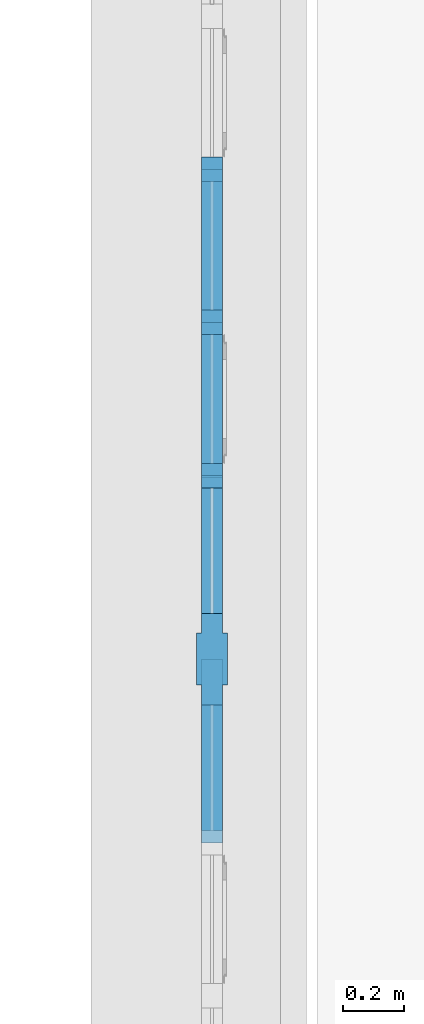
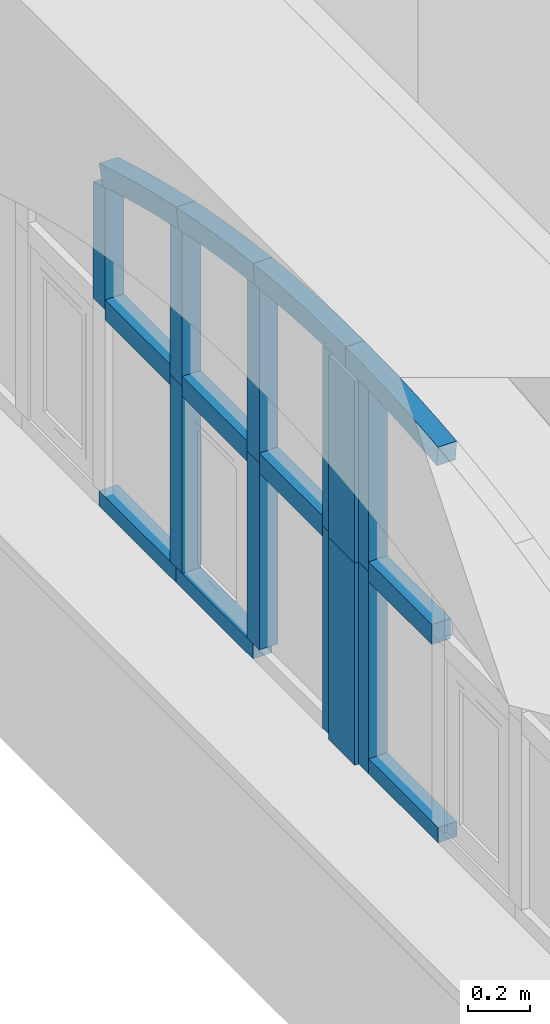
# One storey, part 5 of 32: 18 members, 1 element without a shape of its own.
"""IFC2X3 building model written with IfcOpenShell, lengths in millimetres."""

from ifc_helpers import new_model, entity, si_unit, converted_unit, derived_unit, direction, frame, frame_2d, origin, place, context, subcontext, project, spatial, polyline, circle_curve, parameter, trimmed, segment, composite_curve, rectangle, outline, extrude, faceted_brep, source, transform, mapped, material, type_object, type_shapes, element, aggregate, save


model = new_model("IFC2X3")

# Units and contexts
model_context = context("Model", 3, precision=0.01, world=origin(), true_north=direction((6.123031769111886e-17, 1.0)))
body_context = subcontext(model_context, "Body", "Model", "MODEL_VIEW")
ifc_project = project(units=[si_unit("LENGTHUNIT", "METRE", prefix="MILLI"), si_unit("AREAUNIT", "SQUARE_METRE"), si_unit("VOLUMEUNIT", "CUBIC_METRE"), converted_unit("PLANEANGLEUNIT", "DEGREE", entity("IfcPlaneAngleMeasure", 0.017453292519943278), si_unit("PLANEANGLEUNIT", "RADIAN"), dimensions=[0, 0, 0, 0, 0, 0, 0]), si_unit("MASSUNIT", "GRAM", prefix="KILO"), derived_unit("MASSDENSITYUNIT", [(si_unit("MASSUNIT", "GRAM", prefix="KILO"), 1), (si_unit("LENGTHUNIT", "METRE"), -3)]), derived_unit("IONCONCENTRATIONUNIT", [(si_unit("MASSUNIT", "GRAM", prefix="KILO"), 1), (si_unit("LENGTHUNIT", "METRE"), -3)]), derived_unit("MOMENTOFINERTIAUNIT", [(si_unit("LENGTHUNIT", "METRE"), 4)]), si_unit("TIMEUNIT", "SECOND"), si_unit("FREQUENCYUNIT", "HERTZ"), si_unit("THERMODYNAMICTEMPERATUREUNIT", "DEGREE_CELSIUS"), derived_unit("THERMALTRANSMITTANCEUNIT", [(si_unit("MASSUNIT", "GRAM", prefix="KILO"), 1), (si_unit("THERMODYNAMICTEMPERATUREUNIT", "KELVIN"), -1), (si_unit("TIMEUNIT", "SECOND"), -3)]), derived_unit("THERMALCONDUCTANCEUNIT", [(si_unit("MASSUNIT", "GRAM", prefix="KILO"), 1), (si_unit("THERMODYNAMICTEMPERATUREUNIT", "KELVIN"), -1), (si_unit("TIMEUNIT", "SECOND"), -3), (si_unit("LENGTHUNIT", "METRE"), 1)]), derived_unit("VOLUMETRICFLOWRATEUNIT", [(si_unit("LENGTHUNIT", "METRE", prefix="DECI"), 3), (si_unit("TIMEUNIT", "SECOND"), -1)]), derived_unit("MASSFLOWRATEUNIT", [(si_unit("MASSUNIT", "GRAM", prefix="KILO"), 1), (si_unit("TIMEUNIT", "SECOND"), -1)]), derived_unit("ROTATIONALFREQUENCYUNIT", [(si_unit("TIMEUNIT", "SECOND"), -1)]), si_unit("ELECTRICCURRENTUNIT", "AMPERE"), si_unit("ELECTRICVOLTAGEUNIT", "VOLT"), si_unit("POWERUNIT", "WATT"), si_unit("FORCEUNIT", "NEWTON", prefix="KILO"), si_unit("ILLUMINANCEUNIT", "LUX"), si_unit("LUMINOUSFLUXUNIT", "LUMEN"), si_unit("LUMINOUSINTENSITYUNIT", "CANDELA"), si_unit("ENERGYUNIT", "JOULE"), derived_unit("USERDEFINED", [(si_unit("MASSUNIT", "GRAM", prefix="KILO"), -1), (si_unit("LENGTHUNIT", "METRE"), -2), (si_unit("TIMEUNIT", "SECOND"), 3), (si_unit("LUMINOUSFLUXUNIT", "LUMEN"), 1)]), derived_unit("USERDEFINED", [(si_unit("MASSUNIT", "GRAM", prefix="KILO"), 1), (si_unit("TIMEUNIT", "SECOND"), -3), (si_unit("LENGTHUNIT", "METRE"), 3), (si_unit("ELECTRICCURRENTUNIT", "AMPERE"), -2)]), derived_unit("SOUNDPOWERUNIT", [(si_unit("MASSUNIT", "GRAM", prefix="KILO"), 1), (si_unit("TIMEUNIT", "SECOND"), -3), (si_unit("LENGTHUNIT", "METRE"), 2)]), derived_unit("SOUNDPRESSUREUNIT", [(si_unit("MASSUNIT", "GRAM", prefix="KILO"), 1), (si_unit("LENGTHUNIT", "METRE"), -1), (si_unit("TIMEUNIT", "SECOND"), -2)]), derived_unit("LINEARVELOCITYUNIT", [(si_unit("LENGTHUNIT", "METRE"), 1), (si_unit("TIMEUNIT", "SECOND"), -1)]), si_unit("PRESSUREUNIT", "PASCAL"), derived_unit("USERDEFINED", [(si_unit("MASSUNIT", "GRAM", prefix="KILO"), 1), (si_unit("LENGTHUNIT", "METRE"), -2), (si_unit("TIMEUNIT", "SECOND"), -2)]), derived_unit("LINEARFORCEUNIT", [(si_unit("MASSUNIT", "GRAM", prefix="KILO"), 1), (si_unit("TIMEUNIT", "SECOND"), -2)]), derived_unit("PLANARFORCEUNIT", [(si_unit("MASSUNIT", "GRAM", prefix="KILO"), 1), (si_unit("LENGTHUNIT", "METRE"), -1), (si_unit("TIMEUNIT", "SECOND"), -2)]), derived_unit("SPECIFICHEATCAPACITYUNIT", [(si_unit("THERMODYNAMICTEMPERATUREUNIT", "KELVIN"), -1), (si_unit("LENGTHUNIT", "METRE"), 2), (si_unit("TIMEUNIT", "SECOND"), -2)]), derived_unit("HEATFLUXDENSITYUNIT", [(si_unit("MASSUNIT", "GRAM", prefix="KILO"), 1), (si_unit("TIMEUNIT", "SECOND"), -3)]), derived_unit("HEATINGVALUEUNIT", [(si_unit("LENGTHUNIT", "METRE"), 2), (si_unit("TIMEUNIT", "SECOND"), -2)]), derived_unit("VAPORPERMEABILITYUNIT", [(si_unit("LENGTHUNIT", "METRE"), -1), (si_unit("TIMEUNIT", "SECOND"), 1)]), derived_unit("DYNAMICVISCOSITYUNIT", [(si_unit("MASSUNIT", "GRAM", prefix="KILO"), 1), (si_unit("TIMEUNIT", "SECOND"), -1), (si_unit("LENGTHUNIT", "METRE"), -1)]), derived_unit("THERMALEXPANSIONCOEFFICIENTUNIT", [(si_unit("THERMODYNAMICTEMPERATUREUNIT", "KELVIN"), -1)]), derived_unit("MODULUSOFELASTICITYUNIT", [(si_unit("MASSUNIT", "GRAM", prefix="KILO"), 1), (si_unit("LENGTHUNIT", "METRE"), -1), (si_unit("TIMEUNIT", "SECOND"), -2)]), derived_unit("ISOTHERMALMOISTURECAPACITYUNIT", [(si_unit("MASSUNIT", "GRAM", prefix="KILO"), -1), (si_unit("LENGTHUNIT", "METRE"), 3)]), derived_unit("MOISTUREDIFFUSIVITYUNIT", [(si_unit("TIMEUNIT", "SECOND"), -1), (si_unit("LENGTHUNIT", "METRE"), 2)]), derived_unit("MASSPERLENGTHUNIT", [(si_unit("MASSUNIT", "GRAM", prefix="KILO"), 1), (si_unit("LENGTHUNIT", "METRE"), -1)]), derived_unit("THERMALRESISTANCEUNIT", [(si_unit("MASSUNIT", "GRAM", prefix="KILO"), -1), (si_unit("TIMEUNIT", "SECOND"), 3), (si_unit("THERMODYNAMICTEMPERATUREUNIT", "KELVIN"), 1)]), derived_unit("ACCELERATIONUNIT", [(si_unit("LENGTHUNIT", "METRE"), 1), (si_unit("TIMEUNIT", "SECOND"), -2)]), derived_unit("ANGULARVELOCITYUNIT", [(si_unit("TIMEUNIT", "SECOND"), -1), (si_unit("PLANEANGLEUNIT", "RADIAN"), 1)]), derived_unit("LINEARSTIFFNESSUNIT", [(si_unit("MASSUNIT", "GRAM", prefix="KILO"), 1), (si_unit("TIMEUNIT", "SECOND"), -2)]), derived_unit("WARPINGCONSTANTUNIT", [(si_unit("LENGTHUNIT", "METRE"), 6)]), derived_unit("LINEARMOMENTUNIT", [(si_unit("MASSUNIT", "GRAM", prefix="KILO"), 1), (si_unit("LENGTHUNIT", "METRE"), 1), (si_unit("TIMEUNIT", "SECOND"), -2)]), derived_unit("TORQUEUNIT", [(si_unit("MASSUNIT", "GRAM", prefix="KILO"), 1), (si_unit("LENGTHUNIT", "METRE"), 2), (si_unit("TIMEUNIT", "SECOND"), -2)])], contexts=[model_context])

# Site, building, storey
site_placement = place(None, origin())
site = spatial("IfcSite", under=ifc_project, at=site_placement, Name="Default", CompositionType="ELEMENT")
building_placement = place(site_placement, origin())
building = spatial("IfcBuilding", under=site, at=building_placement, Name="Eesti Rahvusraamatukogu hoone renoveerimise projekteerimistööd", CompositionType="ELEMENT")
storey_placement = place(building_placement, frame((0.0, 0.0, 4950.000000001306)))
storey = spatial("IfcBuildingStorey", under=building, at=storey_placement, Name="2. korrus", CompositionType="ELEMENT", Elevation=4950.000000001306)

# Curtain wall, members
curtain_wall_type = type_object("IfcCurtainWallType", Name="Curtain Wall:Ak-04", PredefinedType="NOTDEFINED")
curtain_wall_placement = place(storey_placement, frame((0.0, 0.0, -4950.000000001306)))
curtain_wall = element("IfcCurtainWall", 1, at=curtain_wall_placement, inside=storey, type_object=curtain_wall_type, Name="Curtain Wall:Ak-04", ObjectType="Curtain Wall:Ak-04")
ifc_material = material(Name="LUMION_dark steel window frames")
member_type_1 = type_object("IfcMemberType", Name="Rectangular Mullion:NEW 80x70mm", PredefinedType="MULLION", material=ifc_material)
shared_shape_1 = source(origin(), body_context, "Body", "SweptSolid", [
    extrude(rectangle(XDim=80.0, YDim=70.0, at=frame_2d((0.0, -3.552713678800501e-15), x_axis=(1.0, 0.0))), frame((0.0, 0.0, -420.0), z_axis=(0.0, 0.0, 1.0), x_axis=(-1.0, 0.0, 0.0)), (0.0, 0.0, 1.0), 419.999999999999),
])
type_shapes(member_type_1, [shared_shape_1])
member_1_placement = place(curtain_wall_placement, frame((-36383.999999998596, 10036.59999999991, 6550.000000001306), z_axis=(0.0, -1.0, 0.0), x_axis=(0.0, 0.0, 1.0)))
member_1 = element("IfcMember", 2, at=member_1_placement, type_object=member_type_1, material=ifc_material, Name="Rectangular Mullion:NEW 80x70mm", ObjectType="Rectangular Mullion:NEW 80x70mm", context=body_context, shape_type="MappedRepresentation", body=[
    mapped(shared_shape_1, transform((0.0, 0.0, 0.0), scale=1.0)),
])
member_2_placement = place(curtain_wall_placement, frame((-36383.999999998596, 10536.59999999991, 6550.000000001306), z_axis=(0.0, -1.0, 0.0), x_axis=(0.0, 0.0, 1.0)))
member_2 = element("IfcMember", 3, at=member_2_placement, type_object=member_type_1, material=ifc_material, Name="Rectangular Mullion:NEW 80x70mm", ObjectType="Rectangular Mullion:NEW 80x70mm", context=body_context, shape_type="MappedRepresentation", body=[
    mapped(shared_shape_1, transform((0.0, 0.0, 0.0), scale=1.0)),
])
member_type_2 = type_object("IfcMemberType", Name="Rectangular Mullion:NEW 80x70mm", PredefinedType="MULLION", material=ifc_material)
shared_shape_2 = source(origin(), body_context, "Body", "SweptSolid", [
    extrude(rectangle(XDim=80.0, YDim=70.0, at=frame_2d((0.0, -3.552713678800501e-15), x_axis=(1.0, 0.0))), frame((0.0, 0.0, -410.0), z_axis=(0.0, 0.0, 1.0), x_axis=(-1.0, 0.0, 0.0)), (0.0, 0.0, 1.0), 409.9999999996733),
])
type_shapes(member_type_2, [shared_shape_2])
member_3_placement = place(curtain_wall_placement, frame((-36383.999999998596, 9546.599999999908, 6550.000000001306), z_axis=(0.0, -1.0, 0.0), x_axis=(0.0, 0.0, 1.0)))
member_3 = element("IfcMember", 4, at=member_3_placement, type_object=member_type_2, material=ifc_material, Name="Rectangular Mullion:NEW 80x70mm", ObjectType="Rectangular Mullion:NEW 80x70mm", context=body_context, shape_type="MappedRepresentation", body=[
    mapped(shared_shape_2, transform((0.0, 0.0, 0.0), scale=1.0)),
])
member_4_placement = place(curtain_wall_placement, frame((-36383.999999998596, 8836.59999999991, 6550.000000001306), z_axis=(0.0, -1.0, 0.0), x_axis=(0.0, 0.0, 1.0)))
member_4 = element("IfcMember", 5, at=member_4_placement, type_object=member_type_2, material=ifc_material, Name="Rectangular Mullion:NEW 80x70mm", ObjectType="Rectangular Mullion:NEW 80x70mm", context=body_context, shape_type="MappedRepresentation", body=[
    mapped(shared_shape_2, transform((0.0, 0.0, 0.0), scale=1.0)),
])
member_type_3 = type_object("IfcMemberType", Name="Rectangular Mullion:NEW 60x70mm", PredefinedType="MULLION", material=ifc_material)
shared_shape_3 = source(origin(), body_context, "Body", "SweptSolid", [
    extrude(rectangle(XDim=60.0, YDim=70.0, at=frame_2d((0.0, 3.552713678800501e-15), x_axis=(1.0, 0.0))), frame((-30.0, 0.0, -500.0), z_axis=(0.0, 0.0, 1.0), x_axis=(-1.0, 0.0, 0.0)), (0.0, 0.0, 1.0), 499.999999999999),
])
type_shapes(member_type_3, [shared_shape_3])
member_5_placement = place(curtain_wall_placement, frame((-36383.999999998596, 10496.59999999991, 5750.000000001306), z_axis=(0.0, 1.0, 0.0), x_axis=(0.0, 0.0, -1.0)))
member_5 = element("IfcMember", 6, at=member_5_placement, type_object=member_type_3, material=ifc_material, Name="Rectangular Mullion:NEW 60x70mm", ObjectType="Rectangular Mullion:NEW 60x70mm", context=body_context, shape_type="MappedRepresentation", body=[
    mapped(shared_shape_3, transform((0.0, 0.0, 0.0), scale=1.0)),
])
member_6_placement = place(curtain_wall_placement, frame((-36383.999999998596, 10996.599999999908, 5750.000000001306), z_axis=(0.0, 1.0, 0.0), x_axis=(0.0, 0.0, -1.0)))
member_6 = element("IfcMember", 7, at=member_6_placement, type_object=member_type_3, material=ifc_material, Name="Rectangular Mullion:NEW 60x70mm", ObjectType="Rectangular Mullion:NEW 60x70mm", context=body_context, shape_type="MappedRepresentation", body=[
    mapped(shared_shape_3, transform((0.0, 0.0, 0.0), scale=1.0)),
])
member_type_4 = type_object("IfcMemberType", Name="Rectangular Mullion:NEW 60x70mm", PredefinedType="MULLION", material=ifc_material)
shared_shape_4 = source(origin(), body_context, "Body", "SweptSolid", [
    extrude(rectangle(XDim=60.0, YDim=70.0, at=frame_2d((0.0, 3.552713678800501e-15), x_axis=(1.0, 0.0))), frame((-30.0, 0.0, -450.0), z_axis=(0.0, 0.0, 1.0), x_axis=(-1.0, 0.0, 0.0)), (0.0, 0.0, 1.0), 449.9999999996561),
])
type_shapes(member_type_4, [shared_shape_4])
member_7_placement = place(curtain_wall_placement, frame((-36383.999999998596, 9246.599999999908, 5750.000000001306), z_axis=(0.0, 1.0, 0.0), x_axis=(0.0, 0.0, -1.0)))
member_7 = element("IfcMember", 8, at=member_7_placement, type_object=member_type_4, material=ifc_material, Name="Rectangular Mullion:NEW 60x70mm", ObjectType="Rectangular Mullion:NEW 60x70mm", context=body_context, shape_type="MappedRepresentation", body=[
    mapped(shared_shape_4, transform((0.0, 0.0, 0.0), scale=1.0)),
])
member_type_5 = type_object("IfcMemberType", Name="Rectangular Mullion:NEW 80x70mm", PredefinedType="MULLION", material=ifc_material)
shared_shape_5 = source(origin(), body_context, "Body", "SweptSolid", [
    extrude(rectangle(XDim=80.0, YDim=70.0, at=frame_2d((0.0, -3.552713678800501e-15), x_axis=(1.0, 0.0))), frame((0.0, 0.0, -740.0), z_axis=(0.0, 0.0, 1.0), x_axis=(-1.0, 0.0, 0.0)), (0.0, 0.0, 1.0), 740.0),
])
type_shapes(member_type_5, [shared_shape_5])
member_8_placement = place(curtain_wall_placement, frame((-36383.999999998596, 9996.599999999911, 5810.000000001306), z_axis=(0.0, 0.0, -1.0), x_axis=(0.0, -1.0, 0.0)))
member_8 = element("IfcMember", 9, at=member_8_placement, type_object=member_type_5, material=ifc_material, Name="Rectangular Mullion:NEW 80x70mm", ObjectType="Rectangular Mullion:NEW 80x70mm", context=body_context, shape_type="MappedRepresentation", body=[
    mapped(shared_shape_5, transform((0.0, 0.0, 0.0), scale=1.0)),
])
member_9_placement = place(curtain_wall_placement, frame((-36383.999999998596, 10496.59999999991, 5810.000000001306), z_axis=(0.0, 0.0, -1.0), x_axis=(0.0, -1.0, 0.0)))
member_9 = element("IfcMember", 10, at=member_9_placement, type_object=member_type_5, material=ifc_material, Name="Rectangular Mullion:NEW 80x70mm", ObjectType="Rectangular Mullion:NEW 80x70mm", context=body_context, shape_type="MappedRepresentation", body=[
    mapped(shared_shape_5, transform((0.0, 0.0, 0.0), scale=1.0)),
])
member_type_6 = type_object("IfcMemberType", Name="Rectangular Mullion:NEW 80x70mm", PredefinedType="MULLION", material=ifc_material)
shared_shape_6 = source(origin(), body_context, "Body", "SweptSolid", [
    extrude(outline(composite_curve([segment(polyline([(-411.6963002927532, -38.21553912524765), (278.6344972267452, -38.21553912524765)]), True, "CONTINUOUS"), segment(trimmed(circle_curve(frame_2d((-4991.472419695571, -598.2155391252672), x_axis=(1.0, 0.0)), 5299.776119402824), [parameter(6.065472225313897)], [parameter(6.403451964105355)], True, "PARAMETER"), True, "CONTINUOUS"), segment(trimmed(circle_curve(frame_2d((-4991.472419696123, -598.2155391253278), x_axis=(0.9937612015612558, 0.11152880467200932)), 5299.776119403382), [parameter(0.0)], [parameter(0.532503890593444)], True, "PARAMETER"), True, "CONTINUOUS"), segment(polyline([(269.51863863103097, 41.78446087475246), (-411.6963002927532, 41.78446087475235)]), True, "CONTINUOUS"), segment(polyline([(-411.6963002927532, 41.78446087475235), (-411.6963002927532, -38.21553912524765)]), True, "CONTINUOUS")], self_intersect=False)), frame((1.7844608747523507, -35.0, -411.6963002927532), z_axis=(0.0, 1.0, 0.0), x_axis=(0.0, 0.0, -1.0)), (0.0, 0.0, 1.0), 69.99999999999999),
])
type_shapes(member_type_6, [shared_shape_6])
member_10_placement = place(curtain_wall_placement, frame((-36383.999999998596, 9996.599999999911, 6550.000000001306), z_axis=(0.0, 0.0, -1.0), x_axis=(0.0, -1.0, 0.0)))
member_10 = element("IfcMember", 11, at=member_10_placement, type_object=member_type_6, material=ifc_material, Name="Rectangular Mullion:NEW 80x70mm", ObjectType="Rectangular Mullion:NEW 80x70mm", context=body_context, shape_type="MappedRepresentation", body=[
    mapped(shared_shape_6, transform((0.0, 0.0, 0.0), scale=1.0)),
])
member_type_7 = type_object("IfcMemberType", Name="Rectangular Mullion:NEW 80x70mm", PredefinedType="MULLION", material=ifc_material)
shared_shape_7 = source(origin(), body_context, "Body", "SweptSolid", [
    extrude(outline(composite_curve([segment(polyline([(-363.376788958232, -36.72848839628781), (249.53684896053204, -36.72848839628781)]), True, "CONTINUOUS"), segment(trimmed(circle_curve(frame_2d((-4943.152908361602, -1096.7284883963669), x_axis=(0.9937612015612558, 0.11152880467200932)), 5299.776119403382), [parameter(5.134001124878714)], [parameter(5.394992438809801)], True, "PARAMETER"), True, "CONTINUOUS"), segment(trimmed(circle_curve(frame_2d((-4943.152908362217, -1096.7284883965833), x_axis=(0.9788729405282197, 0.20446947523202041)), 5299.776119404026), [parameter(0.0)], [parameter(0.6231507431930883)], True, "PARAMETER"), True, "CONTINUOUS"), segment(polyline([(232.5622031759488, 43.27151160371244), (-363.376788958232, 43.27151160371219)]), True, "CONTINUOUS"), segment(polyline([(-363.376788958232, 43.27151160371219), (-363.376788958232, -36.72848839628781)]), True, "CONTINUOUS")], self_intersect=False)), frame((3.2715116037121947, -35.0, -363.376788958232), z_axis=(0.0, 1.0, 0.0), x_axis=(0.0, 0.0, -1.0)), (0.0, 0.0, 1.0), 69.99999999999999),
])
type_shapes(member_type_7, [shared_shape_7])
member_11_placement = place(curtain_wall_placement, frame((-36383.999999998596, 10496.59999999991, 6550.000000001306), z_axis=(0.0, 0.0, -1.0), x_axis=(0.0, -1.0, 0.0)))
member_11 = element("IfcMember", 12, at=member_11_placement, type_object=member_type_7, material=ifc_material, Name="Rectangular Mullion:NEW 80x70mm", ObjectType="Rectangular Mullion:NEW 80x70mm", context=body_context, shape_type="MappedRepresentation", body=[
    mapped(shared_shape_7, transform((0.0, 0.0, 0.0), scale=1.0)),
])
member_type_8 = type_object("IfcMemberType", Name="Rectangular Mullion:NEW 80x70mm", PredefinedType="MULLION", material=ifc_material)
shared_shape_8 = source(origin(), body_context, "Body", "SweptSolid", [
    extrude(outline(composite_curve([segment(polyline([(-285.0515721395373, -35.24143766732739), (200.1527542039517, -35.24143766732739)]), True, "CONTINUOUS"), segment(trimmed(circle_curve(frame_2d((-4864.827691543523, -1595.241437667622), x_axis=(0.9788729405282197, 0.20446947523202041)), 5299.776119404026), [parameter(5.320243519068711)], [parameter(5.503672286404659)], True, "PARAMETER"), True, "CONTINUOUS"), segment(trimmed(circle_curve(frame_2d((-4864.827691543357, -1595.2414376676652), x_axis=(0.9547498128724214, 0.2974101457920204)), 5299.776119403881), [parameter(0.0)], [parameter(0.7237926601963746)], True, "PARAMETER"), True, "CONTINUOUS"), segment(polyline([(174.8178233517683, 44.758562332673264), (-285.0515721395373, 44.75856233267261)]), True, "CONTINUOUS"), segment(polyline([(-285.0515721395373, 44.75856233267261), (-285.0515721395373, -35.24143766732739)]), True, "CONTINUOUS")], self_intersect=False)), frame((4.758562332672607, -35.0, -285.0515721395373), z_axis=(0.0, 1.0, 0.0), x_axis=(0.0, 0.0, -1.0)), (0.0, 0.0, 1.0), 70.00000000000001),
])
type_shapes(member_type_8, [shared_shape_8])
member_12_placement = place(curtain_wall_placement, frame((-36383.999999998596, 10996.599999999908, 6550.000000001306), z_axis=(0.0, 0.0, -1.0), x_axis=(0.0, -1.0, 0.0)))
member_12 = element("IfcMember", 13, at=member_12_placement, type_object=member_type_8, material=ifc_material, Name="Rectangular Mullion:NEW 80x70mm", ObjectType="Rectangular Mullion:NEW 80x70mm", context=body_context, shape_type="MappedRepresentation", body=[
    mapped(shared_shape_8, transform((0.0, 0.0, 0.0), scale=1.0)),
])
member_type_9 = type_object("IfcMemberType", Name="Rectangular Mullion:NEW 80x70mm", PredefinedType="MULLION", material=ifc_material)
shared_shape_9 = source(origin(), body_context, "Body", "SweptSolid", [
    extrude(outline(composite_curve([segment(polyline([(-51.82710825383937, -251.02635265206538), (28.172891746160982, -251.0263526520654)]), True, "CONTINUOUS"), segment(trimmed(circle_curve(frame_2d((5327.949011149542, -251.0263526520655), x_axis=(-0.995570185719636, 0.09402130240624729)), 5299.776119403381), [parameter(3.5622212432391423e-13)], [parameter(5.394992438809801)], True, "PARAMETER"), False, "CONTINUOUS"), segment(polyline([(51.649915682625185, 247.26550055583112), (-27.99569917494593, 254.78720474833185)]), True, "CONTINUOUS"), segment(trimmed(circle_curve(frame_2d((5327.949011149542, -251.0263526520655), x_axis=(-0.995570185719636, 0.09402130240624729)), 5379.776119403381), [parameter(3.5622212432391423e-13)], [parameter(5.394992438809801)], True, "PARAMETER"), True, "CONTINUOUS")], self_intersect=False)), frame((-51.827108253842, -35.0, -251.0263526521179), z_axis=(0.0, 1.0, 0.0), x_axis=(-0.9955701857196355, 0.0, 0.09402130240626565)), (0.0, 0.0, 1.0), 69.99999999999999),
])
type_shapes(member_type_9, [shared_shape_9])
member_13_placement = place(curtain_wall_placement, frame((-36383.999999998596, 9996.599999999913, 7316.436661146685), z_axis=(0.0, -0.9937612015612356, 0.1115288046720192), x_axis=(0.0, 0.1115288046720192, 0.9937612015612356)))
member_13 = element("IfcMember", 14, at=member_13_placement, type_object=member_type_9, material=ifc_material, Name="Rectangular Mullion:NEW 80x70mm", ObjectType="Rectangular Mullion:NEW 80x70mm", context=body_context, shape_type="MappedRepresentation", body=[
    mapped(shared_shape_9, transform((0.0, 0.0, 0.0), scale=1.0)),
])
member_type_10 = type_object("IfcMemberType", Name="Rectangular Mullion:NEW 80x70mm", PredefinedType="MULLION", material=ifc_material)
shared_shape_10 = source(origin(), body_context, "Body", "SweptSolid", [
    extrude(outline(composite_curve([segment(polyline([(-52.308041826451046, -256.0677643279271), (27.6919581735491, -256.0677643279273)]), True, "CONTINUOUS"), segment(trimmed(circle_curve(frame_2d((5327.468077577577, -256.0677643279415), x_axis=(-0.995390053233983, 0.09590955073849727)), 5299.776119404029), [parameter(3.5622212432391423e-13)], [parameter(5.503672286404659)], True, "PARAMETER"), False, "CONTINUOUS"), segment(polyline([(52.12364395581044, 252.23138229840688), (-27.50756030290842, 259.90414635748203)]), True, "CONTINUOUS"), segment(trimmed(circle_curve(frame_2d((5327.468077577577, -256.0677643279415), x_axis=(-0.995390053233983, 0.09590955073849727)), 5379.776119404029), [parameter(3.5622212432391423e-13)], [parameter(5.503672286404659)], True, "PARAMETER"), True, "CONTINUOUS")], self_intersect=False)), frame((-52.30804182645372, -35.0, -256.0677643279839), z_axis=(0.0, 1.0, 0.0), x_axis=(-0.9953900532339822, 0.0, 0.09590955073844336)), (0.0, 0.0, 1.0), 69.99999999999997),
])
type_shapes(member_type_10, [shared_shape_10])
member_14_placement = place(curtain_wall_placement, frame((-36383.999999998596, 10496.599999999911, 7236.341149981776), z_axis=(0.0, -0.9788729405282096, 0.20446947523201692), x_axis=(0.0, 0.20446947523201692, 0.9788729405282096)))
member_14 = element("IfcMember", 15, at=member_14_placement, type_object=member_type_10, material=ifc_material, Name="Rectangular Mullion:NEW 80x70mm", ObjectType="Rectangular Mullion:NEW 80x70mm", context=body_context, shape_type="MappedRepresentation", body=[
    mapped(shared_shape_10, transform((0.0, 0.0, 0.0), scale=1.0)),
])
member_type_11 = type_object("IfcMemberType", Name="Rectangular Mullion:NEW 300x100mm", PredefinedType="MULLION", material=ifc_material)
shared_shape_11 = source(origin(), body_context, "Body", "Brep", [
    faceted_brep([(-85.0, -50.0, 0.0), (85.0, -50.0, 0.0), (85.0, -35.0, 0.0), (150.0, -35.0, 0.0), (150.0, 35.0, 0.0), (85.0, 35.0, 0.0), (85.0, 50.0, 0.0), (-85.0, 50.0, 0.0), (-85.0, 35.0, 0.0), (-150.0, 35.0, 0.0), (-150.0, -35.0, 0.0), (-85.0, -35.0, 0.0), (-85.0, 35.0, -719.3183235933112), (-117.50221047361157, 35.0, -718.6972594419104), (-150.0, 35.0, -717.8768435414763), (150.0, 35.0, -717.8768435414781), (117.50221047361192, 35.0, -718.6972594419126), (85.0, 35.0, -719.3183235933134), (-150.0, -35.0, -717.8768435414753), (-117.50221047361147, -35.0, -718.6972594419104), (-85.0, -35.0, -719.3183235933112), (85.0, -35.0, -719.3183235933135), (117.50221047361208, -35.0, -718.6972594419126), (150.0, -35.0, -717.8768435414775), (-85.0, -50.0, -719.3183235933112), (-85.0, 50.0, -719.3183235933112), (-42.50068337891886, -50.0, -719.8295836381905), (0.0, -50.0, -720.0), (42.500683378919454, -50.0, -719.8295836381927), (85.0, -50.0, -719.3183235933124), (85.0, 50.0, -719.3183235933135), (42.500683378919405, 50.0, -719.8295836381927), (0.0, 50.0, -720.0), (-42.500683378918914, 50.0, -719.8295836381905)], [[[0, 1, 2, 3, 4, 5, 6, 7, 8, 9, 10, 11]], [[9, 8, 12, 13, 14]], [[5, 4, 15, 16, 17]], [[10, 9, 14, 18]], [[11, 10, 18, 19, 20]], [[3, 2, 21, 22, 23]], [[0, 11, 20, 24]], [[8, 7, 25, 12]], [[1, 0, 24, 26, 27, 28, 29]], [[2, 1, 29, 21]], [[6, 5, 17, 30]], [[4, 3, 23, 15]], [[7, 6, 30, 31, 32, 33, 25]], [[33, 32, 27, 26]], [[20, 12, 25, 33, 26, 24]], [[20, 19, 13, 12]], [[19, 18, 14, 13]], [[15, 23, 22, 16]], [[16, 22, 21, 17]], [[21, 29, 28, 31, 30, 17]], [[31, 28, 27, 32]]]),
])
type_shapes(member_type_11, [shared_shape_11])
member_15_placement = place(curtain_wall_placement, frame((-36383.999999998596, 9396.599999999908, 6550.000000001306), z_axis=(0.0, 0.0, -1.0), x_axis=(0.0, -1.0, 0.0)))
member_15 = element("IfcMember", 16, at=member_15_placement, type_object=member_type_11, material=ifc_material, Name="Rectangular Mullion:NEW 300x100mm", ObjectType="Rectangular Mullion:NEW 300x100mm", context=body_context, shape_type="MappedRepresentation", body=[
    mapped(shared_shape_11, transform((0.0, 0.0, 0.0), scale=1.0)),
])
member_type_12 = type_object("IfcMemberType", Name="Rectangular Mullion:NEW 300x100mm", PredefinedType="MULLION", material=ifc_material)
shared_shape_12 = source(origin(), body_context, "Body", "SweptSolid", [
    extrude(outline(polyline([(85.0, -35.0), (150.0, -35.0), (150.0, 35.0), (85.0, 35.0), (85.0, 50.0), (-85.0, 50.0), (-85.0, 35.0), (-150.0, 35.0), (-150.0, -35.0), (-85.0, -35.0), (-85.0, -50.0), (85.0, -50.0), (85.0, -35.0)])), frame((0.0, 0.0, -800.0), z_axis=(0.0, 0.0, 1.0), x_axis=(-1.0, 0.0, 0.0)), (0.0, 0.0, 1.0), 800.0),
])
type_shapes(member_type_12, [shared_shape_12])
member_16_placement = place(curtain_wall_placement, frame((-36383.999999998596, 9396.599999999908, 5750.000000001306), z_axis=(0.0, 0.0, -1.0), x_axis=(0.0, -1.0, 0.0)))
member_16 = element("IfcMember", 17, at=member_16_placement, type_object=member_type_12, material=ifc_material, Name="Rectangular Mullion:NEW 300x100mm", ObjectType="Rectangular Mullion:NEW 300x100mm", context=body_context, shape_type="MappedRepresentation", body=[
    mapped(shared_shape_12, transform((0.0, 0.0, 0.0), scale=1.0)),
])
member_type_13 = type_object("IfcMemberType", Name="Rectangular Mullion:NEW 80x70mm", PredefinedType="MULLION", material=ifc_material)
shared_shape_13 = source(origin(), body_context, "Body", "SweptSolid", [
    extrude(outline(composite_curve([segment(polyline([(-56.65689345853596, -297.7694239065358), (23.343106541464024, -297.7694239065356)]), True, "CONTINUOUS"), segment(trimmed(circle_curve(frame_2d((5323.119225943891, -297.7694239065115), x_axis=(-0.9937612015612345, 0.11152880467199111)), 5299.776119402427), [parameter(3.5622212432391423e-13)], [parameter(6.4034519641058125)], True, "PARAMETER"), False, "CONTINUOUS"), segment(polyline([(56.40734152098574, 293.3082717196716), (-23.093554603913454, 302.230576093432)]), True, "CONTINUOUS"), segment(trimmed(circle_curve(frame_2d((5323.119225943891, -297.7694239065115), x_axis=(-0.9937612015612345, 0.11152880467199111)), 5379.776119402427), [parameter(3.5622212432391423e-13)], [parameter(6.4034519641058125)], True, "PARAMETER"), True, "CONTINUOUS")], self_intersect=False)), frame((-56.6568934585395, -35.0, -297.7694239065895), z_axis=(0.0, 1.0, 0.0), x_axis=(-0.9937612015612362, 0.0, 0.11152880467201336)), (0.0, 0.0, 1.0), 70.00000000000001),
])
type_shapes(member_type_13, [shared_shape_13])
member_17_placement = place(curtain_wall_placement, frame((-36383.999999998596, 8796.59999999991, 7316.436661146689), z_axis=(0.0, -0.9937612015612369, -0.11152880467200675), x_axis=(0.0, -0.11152880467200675, 0.9937612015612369)))
member_17 = element("IfcMember", 18, at=member_17_placement, type_object=member_type_13, material=ifc_material, Name="Rectangular Mullion:NEW 80x70mm", ObjectType="Rectangular Mullion:NEW 80x70mm", context=body_context, shape_type="MappedRepresentation", body=[
    mapped(shared_shape_13, transform((0.0, 0.0, 0.0), scale=1.0)),
])
member_type_14 = type_object("IfcMemberType", Name="Rectangular Mullion:NEW 80x70mm", PredefinedType="MULLION", material=ifc_material)
shared_shape_14 = source(origin(), body_context, "Body", "SweptSolid", [
    extrude(outline(composite_curve([segment(polyline([(-56.65689345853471, -297.7694239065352), (23.343106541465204, -297.7694239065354)]), True, "CONTINUOUS"), segment(trimmed(circle_curve(frame_2d((5323.11922594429, -297.7694239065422), x_axis=(-0.9937612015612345, 0.11152880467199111)), 5299.776119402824), [parameter(3.5622212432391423e-13)], [parameter(6.403451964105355)], True, "PARAMETER"), False, "CONTINUOUS"), segment(polyline([(56.40734152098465, 293.3082717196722), (-23.093554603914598, 302.2305760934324)]), True, "CONTINUOUS"), segment(trimmed(circle_curve(frame_2d((5323.11922594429, -297.7694239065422), x_axis=(-0.9937612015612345, 0.11152880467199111)), 5379.776119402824), [parameter(3.5622212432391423e-13)], [parameter(6.403451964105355)], True, "PARAMETER"), True, "CONTINUOUS")], self_intersect=False)), frame((-56.65689345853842, -35.0, -297.7694239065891), z_axis=(0.0, 1.0, 0.0), x_axis=(-0.993761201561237, 0.0, 0.11152880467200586)), (0.0, 0.0, 1.0), 70.0),
])
type_shapes(member_type_14, [shared_shape_14])
member_18_placement = place(curtain_wall_placement, frame((-36383.999999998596, 9396.599999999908, 7350.000000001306), z_axis=(0.0, -1.0, 0.0), x_axis=(0.0, 0.0, 1.0)))
member_18 = element("IfcMember", 19, at=member_18_placement, type_object=member_type_14, material=ifc_material, Name="Rectangular Mullion:NEW 80x70mm", ObjectType="Rectangular Mullion:NEW 80x70mm", context=body_context, shape_type="MappedRepresentation", body=[
    mapped(shared_shape_14, transform((0.0, 0.0, 0.0), scale=1.0)),
])
aggregate(curtain_wall, [member_10, member_8, member_11, member_9, member_12, member_5, member_6, member_7, member_13, member_14, member_3, member_1, member_2, member_4, member_15, member_16, member_17, member_18])

save(model, "model.ifc")
